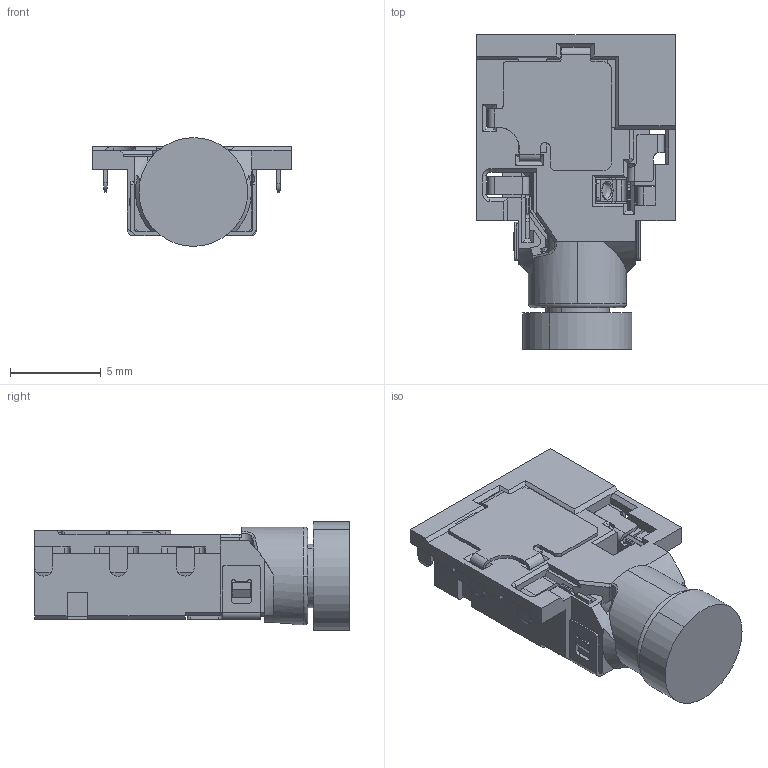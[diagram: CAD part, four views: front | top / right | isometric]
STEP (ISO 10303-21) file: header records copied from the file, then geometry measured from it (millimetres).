
FILE_DESCRIPTION((''),'2;1');
FILE_NAME('J3C-3_ASM','2021-09-01T',('A'),(''),'PRO/ENGINEER BY PARAMETRIC TECHNOLOGY CORPORATION, 2011310','PRO/ENGINEER BY PARAMETRIC TECHNOLOGY CORPORATION, 2011310','');
FILE_SCHEMA(('CONFIG_CONTROL_DESIGN'));
Length unit declared in the file: millimetre
Products named in the file (4): J3C-3-15153; 35_PLUG; J3C-3-29225_ASM; J3C-3_ASM
Assembly tree (3 placements, depth 3):
  J3C-3_ASM
    J3C-3-29225_ASM
      J3C-3-15153
      35_PLUG
Bounding box: 10.95 x 17.35 x 6 mm (x, y, z)
Volume: 532.3 mm3; surface area: 1199.7 mm2
Topology: 2 solids, 4 shells, 860 faces, 2560 edges, 1698 vertices
Faces by surface type: plane 556, cylinder 242, bspline 21, cone 19, torus 18, sphere 4
Entity records: 30433 total; most frequent: CARTESIAN_POINT 7238, ORIENTED_EDGE 4988, DIRECTION 4570, EDGE_CURVE 2494, VECTOR 1802, LINE 1802, VERTEX_POINT 1629, AXIS2_PLACEMENT_3D 1384
